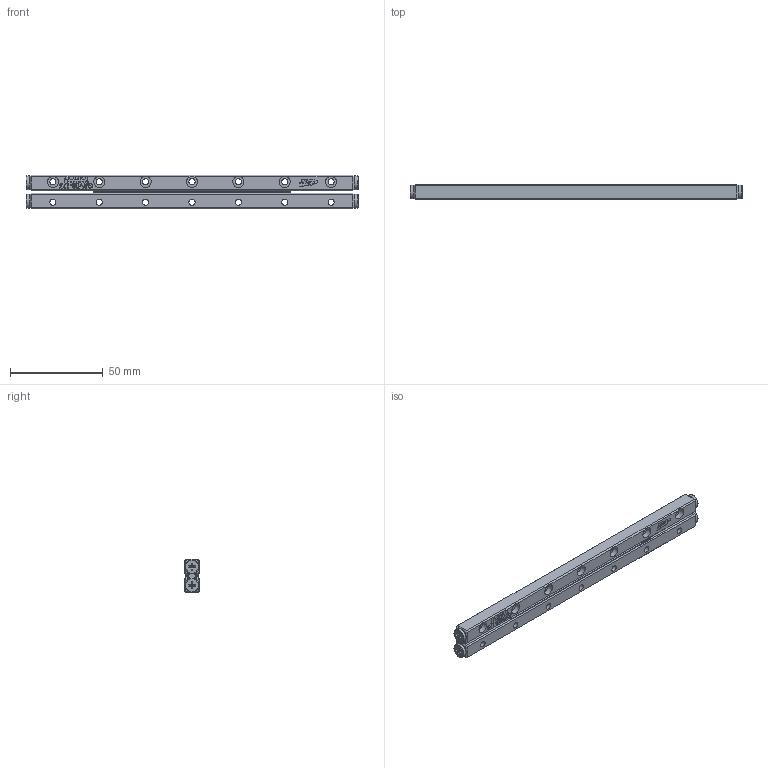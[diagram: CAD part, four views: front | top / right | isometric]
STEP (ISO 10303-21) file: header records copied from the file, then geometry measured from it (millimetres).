
FILE_DESCRIPTION (( 'STEP AP203' ), '1' );
FILE_NAME ('GRV03-175.STEP', '2023-10-16T05:27:05', ( '' ), ( '' ), 'SwSTEP 2.0', 'SolidWorks 2019', '' );
FILE_SCHEMA (( 'CONFIG_CONTROL_DESIGN' ));
Length unit declared in the file: millimetre
Products named in the file (3): GRVP03-175-模糊化保持器組; GRV03-175; GRV03-175-模糊化軌道
Assembly tree (3 placements, depth 2):
  GRV03-175
    GRV03-175-模糊化軌道  x2
    GRVP03-175-模糊化保持器組
Bounding box: 179 x 8 x 18 mm (x, y, z)
Volume: 21398.7 mm3; surface area: 15825.9 mm2
Topology: 3 solids, 3 shells, 1082 faces, 2686 edges, 1740 vertices
Faces by surface type: plane 726, cylinder 160, bspline 110, torus 50, cone 36
Full cylindrical faces by diameter (mm): 3.3 x14, 6 x14, 7.5 x4
Entity records: 24577 total; most frequent: CARTESIAN_POINT 7828, ORIENTED_EDGE 3528, DIRECTION 3035, EDGE_CURVE 1764, VERTEX_POINT 1161, VECTOR 1143, LINE 1143, AXIS2_PLACEMENT_3D 946
